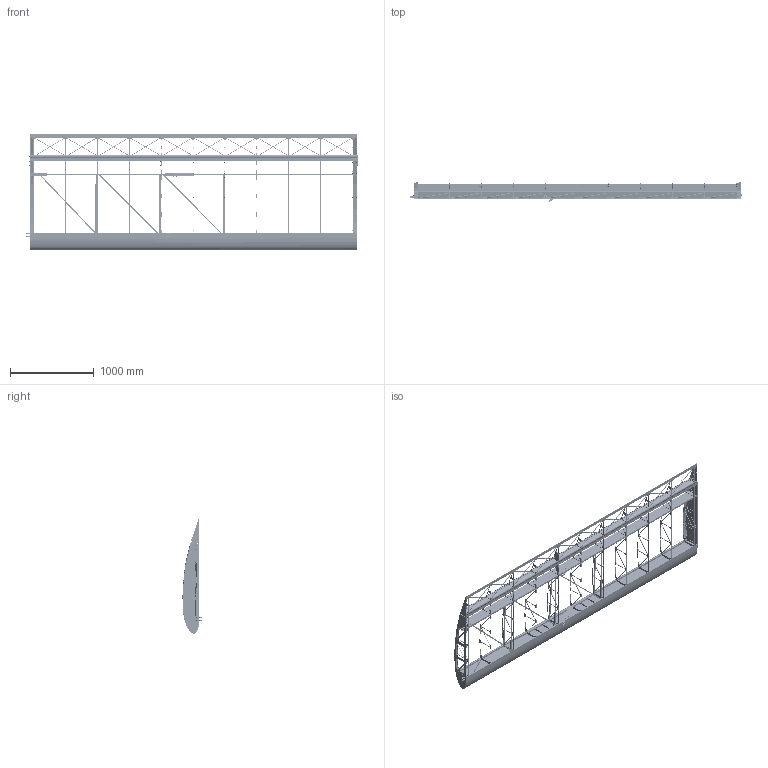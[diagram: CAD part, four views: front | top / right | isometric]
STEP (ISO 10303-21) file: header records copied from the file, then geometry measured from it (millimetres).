
FILE_DESCRIPTION(/* description */ (''),/* implementation_level */ '2;1');
FILE_NAME(/* name */ 'Wing V10 v3.step',/* time_stamp */ '2025-09-18T03:16:55-04:00',/* author */ (''),/* organization */ (''),/* preprocessor_version */ 'ST-DEVELOPER v20.1',/* originating_system */ 'Autodesk Translation Framework v14.10.0.0',/* authorisation */ '');
FILE_SCHEMA (('AUTOMOTIVE_DESIGN { 1 0 10303 214 3 1 1 }'));
Products named in the file (90): Wing V10; Main Wing Panel; Front Spar; shear web; Rear Spar ; shear web (1); Leading Edge Rib v1; Stiffeners and cross bracing; Skins; Skins Plywood; Ribs; Rib 5; Gussetts (3); Rib (2); Nails (2); Nails(Mirror) (2); Rib 4; Gussetts (6); Rib (5); Nails (5); Nails(Mirror) (5); Rib 1; Gussetts (4); Rib (3); Nails (3); Nails(Mirror) (3); Rib 11; Gussetts (13); Rib (12); Nails (12); Nails(Mirror) (12); Rib 6; Gussetts (8); Rib (7); Nails (7); Nails(Mirror) (7); Rib 9; Gussetts (11); Rib (10); Nails (10)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
Assembly tree (104 placements, depth 6):
  Wing V10
    Main Wing Panel
      Front Spar
        shear web
      Rear Spar 
        shear web (1)
      Leading Edge Rib v1
      Stiffeners and cross bracing
      Skins
        Skins Plywood
      Ribs
        Rib 5
          Gussetts (3)
          Rib (2)
          Nails (2)
          Nails(Mirror) (2)
        Rib 4
          Gussetts (6)
          Rib (5)
          Nails (5)
          Nails(Mirror) (5)
        Rib 1
          Gussetts (4)
          Rib (3)
          Nails (3)
          Nails(Mirror) (3)
        Rib 11
          Gussetts (13)
          Rib (12)
          Nails (12)
          Nails(Mirror) (12)
        Rib 6
          Gussetts (8)
          Rib (7)
          Nails (7)
          Nails(Mirror) (7)
        Rib 9
          Gussetts (11)
          Rib (10)
          Nails (10)
          Nails(Mirror) (10)
        Rib 3
          Gussetts (7)
          Rib (6)
          Nails (6)
          Nails(Mirror) (6)
        Rib 2
          Gussetts (5)
          Rib (4)
          Nails (4)
          Nails(Mirror) (4)
        Rib 8
          Gussetts (10)
          Rib (9)
          Nails (9)
          Nails(Mirror) (9)
        Rib Tip
          Gussetts (2)
          Rib (1)
          Nails (1)
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Bounding box: 3969.33 x 228.55 x 1377.86 mm (x, y, z)
Volume: 22485572.8 mm3; surface area: 15634105.6 mm2
Topology: 2574 solids, 2574 shells, 12282 faces, 25540 edges, 16881 vertices
Faces by surface type: plane 7569, cylinder 1999, sphere 1680, bspline 542, cone 456, torus 36
Full cylindrical faces by diameter (mm): 3.175 x12, 3.795 x330, 4.178 x30, 4.7 x320, 4.826 x371, 5.08 x9, 5.156 x11, 5.397 x4, 5.816 x6, 6.35 x387, 6.985 x2, 7.137 x18, 7.938 x7, 9.525 x7, 10.312 x2, 11.112 x11, 15.875 x18, 19.05 x2
Entity records: 376322 total; most frequent: CARTESIAN_POINT 145029, DIRECTION 45095, ORIENTED_EDGE 43388, EDGE_CURVE 21694, AXIS2_PLACEMENT_3D 15973, VERTEX_POINT 15464, LINE 13149, VECTOR 13149
